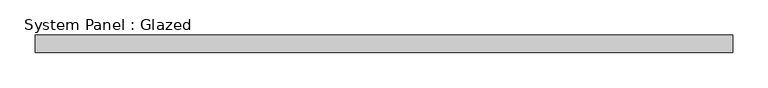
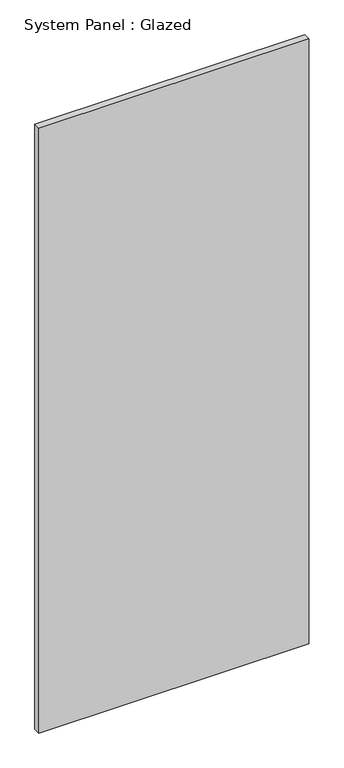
"""IFC4 building model written with IfcOpenShell, lengths in millimetres: plate geometry, System Panel : Glazed."""

from ifc_helpers import new_model, si_unit, origin, origin_with_axes, place, context, project, spatial, polyline, outline, extrude, source, transform, mapped, element, save


def system_panel_glazed_e41b610d(model_context):
    return source(origin(), model_context, "Body", "SweptSolid", [
        extrude(outline(polyline([(495.8333333, 24.5), (-495.8333333, 24.5), (-495.8333333, 49.5), (495.8333333, 49.5), (495.8333333, 24.5)])), origin_with_axes(), (0.0, 0.0, 1.0), 2350.0),
    ])


if __name__ == "__main__":
    model = new_model("IFC4")
    model_context = context("Model", 3, world=origin())
    ifc_project = project(units=[si_unit("LENGTHUNIT", "METRE", prefix="MILLI")], contexts=[model_context])
    site = spatial("IfcSite", under=ifc_project)
    building = spatial("IfcBuilding", under=site)
    placement = place(None, origin())
    system_panel_glazed_shape = system_panel_glazed_e41b610d(model_context)
    element("IfcPlate", 1, ObjectType="System Panel : Glazed", at=placement, inside=building, context=model_context, shape_type="MappedRepresentation", body=[
        mapped(system_panel_glazed_shape, transform((0.0, 0.0, 0.0), x_axis=(1.0, 0.0, 0.0), y_axis=(0.0, 1.0, 0.0), z_axis=(0.0, 0.0, 1.0))),
    ])
    save(model, "model.ifc")
